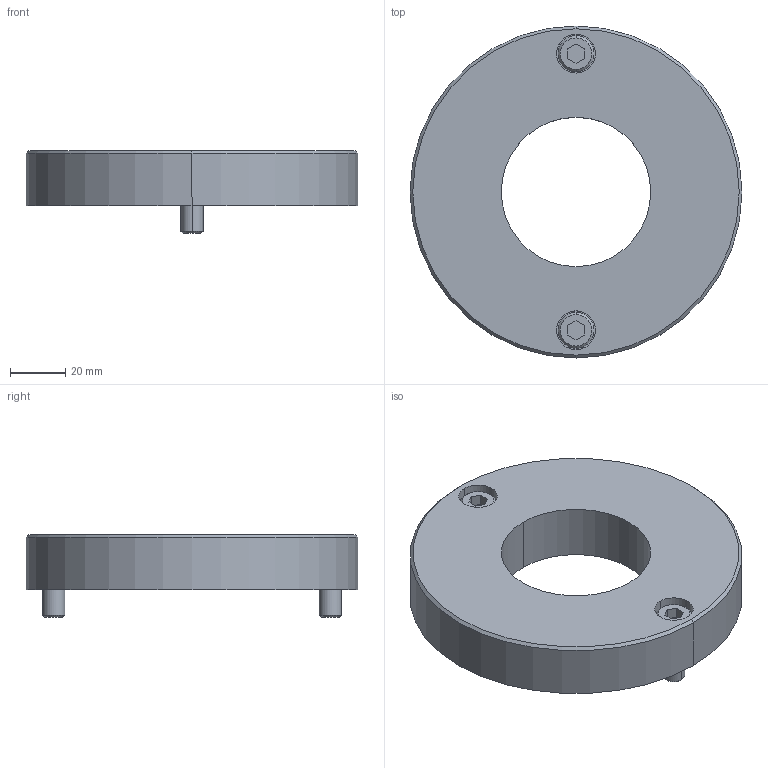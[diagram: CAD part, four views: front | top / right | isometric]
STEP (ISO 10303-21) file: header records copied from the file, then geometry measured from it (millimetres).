
FILE_DESCRIPTION((''),'2;1');
FILE_NAME('','2010-09-08T14:48:01+09:00',('misumi'),(''),'M/STEP i/f 1R2-14','CADmeister v5.1','');
FILE_SCHEMA(('AUTOMOTIVE_DESIGN'));
Length unit declared in the file: millimetre
Products named in the file (1): DSEB50-20-R
Bounding box: 120 x 120 x 30 mm (x, y, z)
Volume: 179696.5 mm3; surface area: 32231.1 mm2
Topology: 3 solids, 3 shells, 54 faces, 118 edges, 76 vertices
Faces by surface type: plane 24, cylinder 20, cone 10
Entity records: 1613 total; most frequent: DIRECTION 280, CARTESIAN_POINT 247, ORIENTED_EDGE 232, EDGE_CURVE 116, AXIS2_PLACEMENT_3D 107, VERTEX_POINT 74, LINE 66, VECTOR 66
